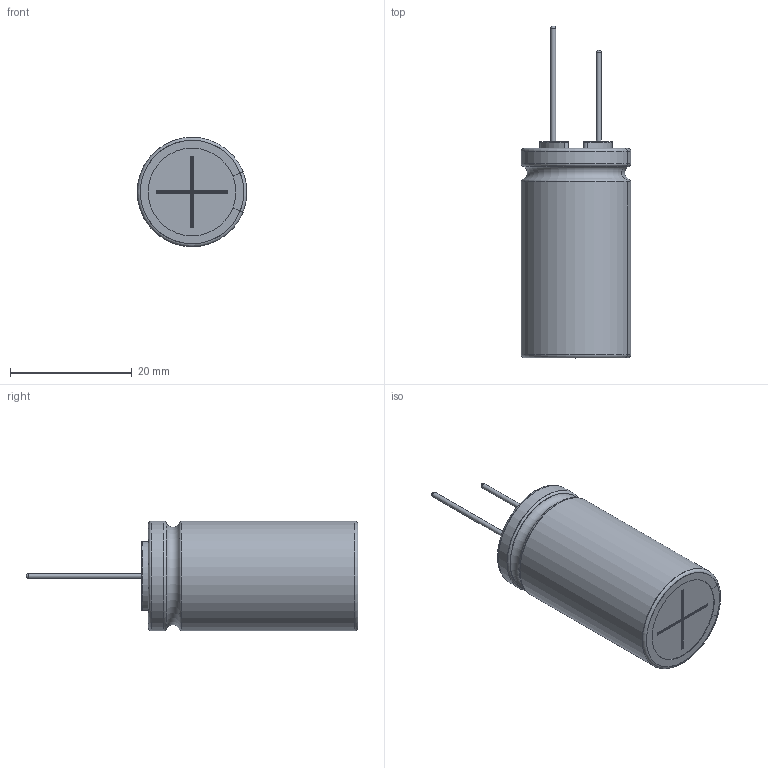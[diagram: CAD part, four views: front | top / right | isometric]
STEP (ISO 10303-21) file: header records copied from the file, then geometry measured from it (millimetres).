
FILE_DESCRIPTION(/* description */ (''),/* implementation_level */ '2;1');
FILE_NAME(/* name */ '18x35.5_Lead.stp',/* time_stamp */ '2017-09-05T14:58:07+09:00',/* author */ (''),/* organization */ (''),/* preprocessor_version */ 'ST-DEVELOPER v16',/* originating_system */ 'SIEMENS PLM Software NX 11.0',/* authorisation */ '');
FILE_SCHEMA (('AUTOMOTIVE_DESIGN { 1 0 10303 214 3 1 1 1 }'));
Length unit declared in the file: millimetre
Products named in the file (1): 18x35.5_Lead_0
Bounding box: 17.97 x 54.5 x 18 mm (x, y, z)
Volume: 8711.8 mm3; surface area: 6849.1 mm2
Topology: 3 solids, 3 shells, 132 faces, 328 edges, 205 vertices
Faces by surface type: cylinder 50, torus 35, plane 33, sphere 6, bspline 6, extrusion 2
Full cylindrical faces by diameter (mm): 0.8 x2, 17.8 x2
Entity records: 4908 total; most frequent: CARTESIAN_POINT 1353, DIRECTION 748, ORIENTED_EDGE 624, EDGE_CURVE 312, AXIS2_PLACEMENT_3D 311, VERTEX_POINT 200, CIRCLE 174, EDGE_LOOP 146
